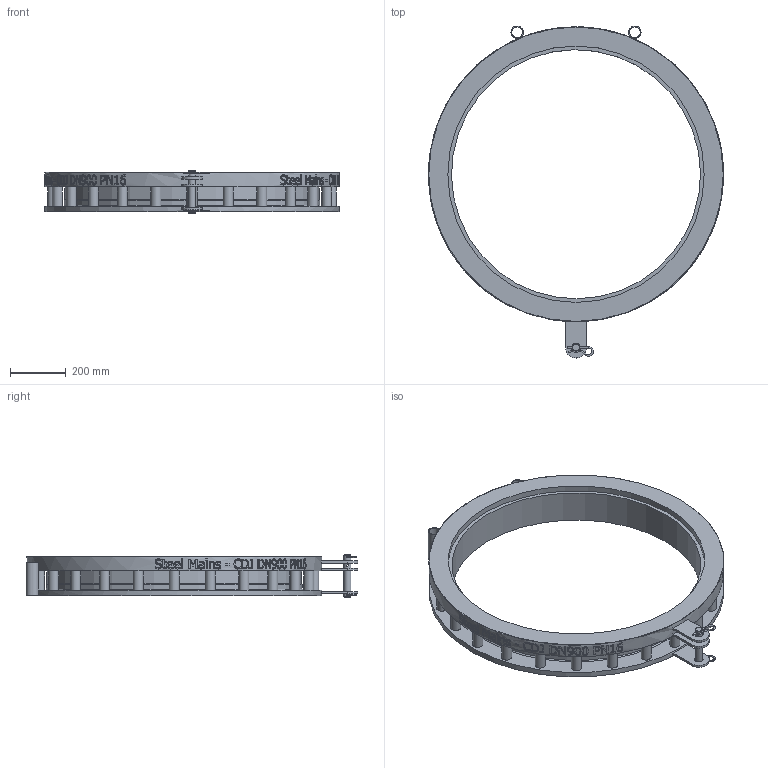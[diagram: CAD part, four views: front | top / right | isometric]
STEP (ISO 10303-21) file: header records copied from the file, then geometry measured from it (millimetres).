
FILE_DESCRIPTION(/* description */ (''),/* implementation_level */ '2;1');
FILE_NAME(/* name */ 'C:\Vault\Designs\Somerton\196\196-21 Models\Marketing Files\SteelMains - CDJ DN900 PN16 - (196-21T rev E).stp',/* time_stamp */ '2025-08-22T13:43:44+10:00',/* author */ ('Sam.Cavallaro'),/* organization */ (''),/* preprocessor_version */ 'ST-DEVELOPER v18.1',/* originating_system */ 'Autodesk Inventor 2021',/* authorisation */ '');
FILE_SCHEMA (('AUTOMOTIVE_DESIGN { 1 0 10303 214 3 1 1 }'));
Length unit declared in the file: millimetre
Products named in the file (1): SPS_ENG-084521
Bounding box: 1054 x 1186.17 x 151 mm (x, y, z)
Volume: 21262373.4 mm3; surface area: 2036670.9 mm2
Topology: 6 solids, 6 shells, 829 faces, 2244 edges, 1497 vertices
Faces by surface type: bspline 402, plane 291, cylinder 123, torus 8, cone 5
Full cylindrical faces by diameter (mm): 4.8 x10, 6 x3, 25 x1, 30 x3, 36 x24, 38.1 x2, 44.5 x2, 890 x1, 910 x1, 914 x1, 916 x1, 1054 x1
Entity records: 36731 total; most frequent: CARTESIAN_POINT 17873, ORIENTED_EDGE 4494, DIRECTION 2681, EDGE_CURVE 2247, VERTEX_POINT 1500, LINE 1021, VECTOR 1021, EDGE_LOOP 965
